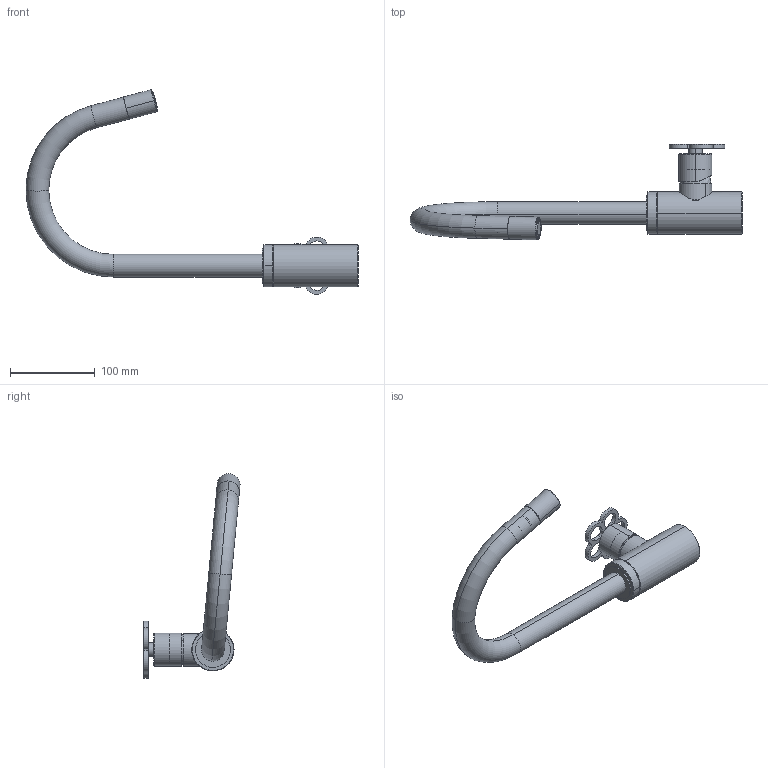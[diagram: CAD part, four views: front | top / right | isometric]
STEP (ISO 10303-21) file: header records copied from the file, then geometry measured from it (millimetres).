
FILE_DESCRIPTION((''),'2;1');
FILE_NAME('T553F','2023-02-10T14:11:22',('matteo.follador'),(''),'CREO PARAMETRIC BY PTC INC, 2020281','CREO PARAMETRIC BY PTC INC, 2020281','');
FILE_SCHEMA(('AUTOMOTIVE_DESIGN { 1 0 10303 214 1 1 1 1 }'));
Length unit declared in the file: millimetre
Products named in the file (1): T553F
Bounding box: 392.55 x 113.67 x 241.97 mm (x, y, z)
Volume: 343446.6 mm3; surface area: 126829.9 mm2
Topology: 2 solids, 5 shells, 293 faces, 693 edges, 433 vertices
Faces by surface type: cylinder 121, plane 95, cone 52, torus 10, extrusion 9, bspline 4, sphere 2
Entity records: 12693 total; most frequent: CARTESIAN_POINT 3930, DIRECTION 1538, ORIENTED_EDGE 1374, EDGE_CURVE 687, AXIS2_PLACEMENT_3D 614, VERTEX_POINT 433, EDGE_LOOP 336, CIRCLE 324
